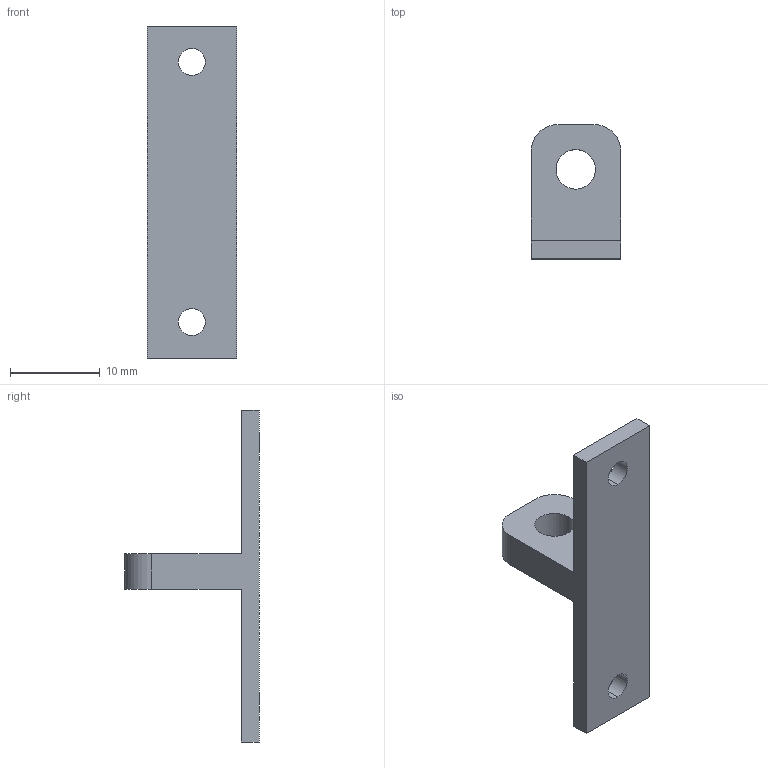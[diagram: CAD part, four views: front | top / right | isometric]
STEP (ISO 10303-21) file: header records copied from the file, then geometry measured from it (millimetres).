
FILE_DESCRIPTION (( 'STEP AP214' ), '1' );
FILE_NAME ('TÐÍ¿é1.STEP', '2024-11-14T11:33:23', ( '' ), ( '' ), 'SwSTEP 2.0', 'SolidWorks 2021', '' );
FILE_SCHEMA (( 'AUTOMOTIVE_DESIGN' ));
Length unit declared in the file: millimetre
Products named in the file (1): T倰輸1
Bounding box: 10 x 15 x 37 mm (x, y, z)
Volume: 1155.5 mm3; surface area: 1308.3 mm2
Topology: 1 solids, 1 shells, 18 faces, 48 edges, 32 vertices
Faces by surface type: plane 10, cylinder 8
Entity records: 614 total; most frequent: DIRECTION 102, CARTESIAN_POINT 99, ORIENTED_EDGE 96, EDGE_CURVE 48, AXIS2_PLACEMENT_3D 35, VECTOR 32, LINE 32, VERTEX_POINT 32
